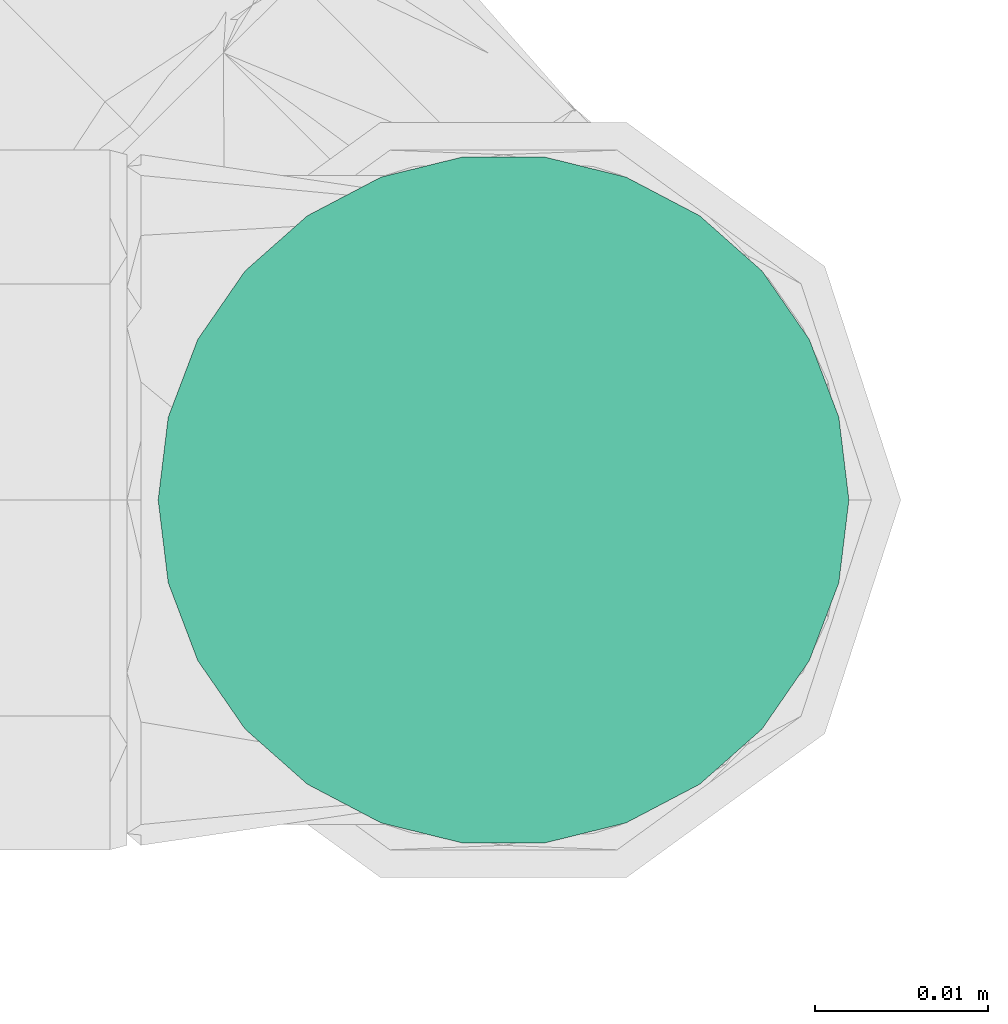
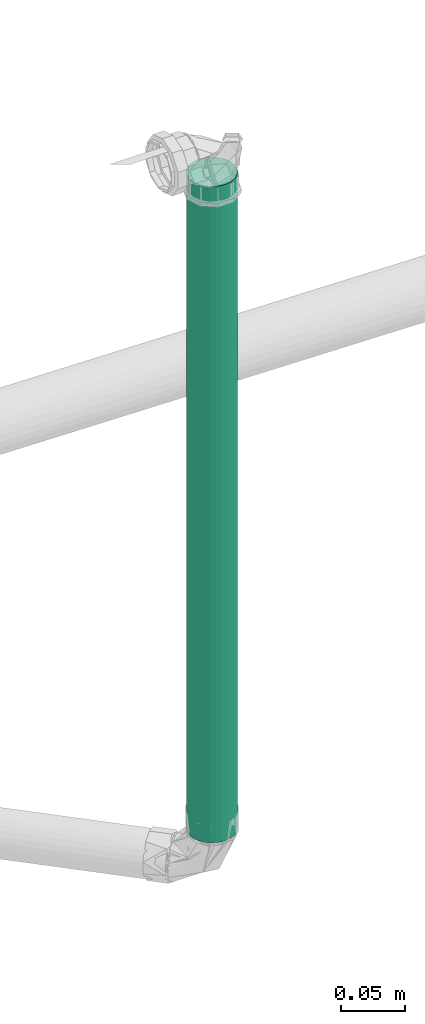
# One storey, part 269 of 589: 1 flow segment.
"""IFC2X3 building model written with IfcOpenShell, lengths in millimetres."""

import ifcopenshell
import ifcopenshell.guid

model = None  # the IFC model being written
_history = None  # IfcOwnerHistory: only IFC2X3 demands one
_inside = {}  # id of a spatial element -> (the spatial element, [elements in it])
_under = {}  # id of a project, library or spatial element -> (it, [spatial elements below it])
_declared = {}  # id of a project -> (the project, [libraries it declares])
_typed = {}  # id of a type object -> (the type object, [elements of that type])
_made_of = {}  # id of a material, layer set ... -> (it, [elements and type objects made of it])


def new_model(schema):
    """Start an empty IFC model of exactly this schema.

    Asked for "IFC4X3", IfcOpenShell would pick the latest addendum, in which some entities
    have other attributes; the version numbers below select the first issue.
    IFC2X3 requires an IfcOwnerHistory on every rooted entity: one is made here for all.
    """
    global model, _history
    if schema == "IFC4X3":
        model = ifcopenshell.file(schema_version=(4, 3, 0, 0))
    else:
        model = ifcopenshell.file(schema=schema)
    _inside.clear()
    _under.clear()
    _declared.clear()
    _typed.clear()
    _made_of.clear()
    _history = None
    if model.schema == "IFC2X3":
        org = make("IfcOrganization", Name="unknown")
        user = make(
            "IfcPersonAndOrganization",
            ThePerson=make("IfcPerson", FamilyName="unknown"),
            TheOrganization=org,
        )
        app = make(
            "IfcApplication",
            ApplicationDeveloper=org,
            Version="unknown",
            ApplicationFullName="unknown",
            ApplicationIdentifier="unknown",
        )
        _history = make(
            "IfcOwnerHistory",
            OwningUser=user,
            OwningApplication=app,
            ChangeAction="ADDED",
            CreationDate=0,
        )
    return model


def make(cls, **values):
    """One entity of the class cls with the attributes given. An attribute that is None is left unset."""
    return model.create_entity(
        cls, **{name: value for name, value in values.items() if value is not None}
    )


def entity(cls, *values):
    """Any entity or typed value of the class cls, its attributes in the order of the schema. None: left unset."""
    e = model.create_entity(cls)
    for i, value in enumerate(values):
        if value is not None:
            e[i] = value
    return e


def rooted(cls, **values):
    """An entity with a GlobalId (a new one), such as an element, a storey or a relation."""
    return make(cls, GlobalId=ifcopenshell.guid.new(), OwnerHistory=_history, **values)


def si_unit(unit_type, name, prefix=None):
    """IfcSIUnit, for example si_unit("LENGTHUNIT", "METRE", prefix="MILLI")."""
    return make("IfcSIUnit", UnitType=unit_type, Prefix=prefix, Name=name)


def converted_unit(unit_type, name, factor, base, dimensions=None, offset=None):
    """IfcConversionBasedUnit, such as the inch: factor (a typed value) times the base unit."""
    return make(
        "IfcConversionBasedUnit"
        if offset is None
        else "IfcConversionBasedUnitWithOffset",
        ConversionOffset=offset,
        Dimensions=None
        if dimensions is None
        else entity("IfcDimensionalExponents", *dimensions),
        UnitType=unit_type,
        Name=name,
        ConversionFactor=make(
            "IfcMeasureWithUnit", ValueComponent=factor, UnitComponent=base
        ),
    )


def derived_unit(unit_type, elements):
    """IfcDerivedUnit: a product of units, each with its exponent."""
    return make(
        "IfcDerivedUnit",
        Elements=[
            make("IfcDerivedUnitElement", Unit=unit, Exponent=power)
            for unit, power in elements
        ],
        UnitType=unit_type,
    )


def assignment(units):
    """IfcUnitAssignment: the units of a project."""
    return None if units is None else make("IfcUnitAssignment", Units=units)


def point(xyz):
    """IfcCartesianPoint."""
    return None if xyz is None else make("IfcCartesianPoint", Coordinates=xyz)


def direction(xyz):
    """IfcDirection."""
    return None if xyz is None else make("IfcDirection", DirectionRatios=xyz)


def frame(location, z_axis=None, x_axis=None):
    """IfcAxis2Placement3D, a coordinate frame: its origin and axes. An axis left out is left unset."""
    return make(
        "IfcAxis2Placement3D",
        Location=point(location),
        Axis=direction(z_axis),
        RefDirection=direction(x_axis),
    )


def frame_2d(location, x_axis=None):
    """IfcAxis2Placement2D, a coordinate frame in the plane: its origin and x axis."""
    return make(
        "IfcAxis2Placement2D", Location=point(location), RefDirection=direction(x_axis)
    )


def origin():
    """The frame at (0, 0, 0) with its axes left unset."""
    return frame((0.0, 0.0, 0.0))


def origin_2d_with_axis():
    """The frame at (0, 0) in the plane with the x axis (1, 0) written out."""
    return frame_2d((0.0, 0.0), x_axis=(1.0, 0.0))


def place(relative_to, where):
    """IfcLocalPlacement: puts the frame where relative to a parent placement (None: the world)."""
    return make(
        "IfcLocalPlacement", PlacementRelTo=relative_to, RelativePlacement=where
    )


def context(
    kind, dimensions, precision=None, world=None, true_north=None, identifier=None
):
    """IfcGeometricRepresentationContext, for example the 3D "Model" context."""
    return make(
        "IfcGeometricRepresentationContext",
        ContextIdentifier=identifier,
        ContextType=kind,
        CoordinateSpaceDimension=dimensions,
        Precision=precision,
        WorldCoordinateSystem=world,
        TrueNorth=true_north,
    )


def subcontext(parent, identifier, kind, view, scale=None):
    """IfcGeometricRepresentationSubContext, for example "Body" below "Model"."""
    return make(
        "IfcGeometricRepresentationSubContext",
        ContextIdentifier=identifier,
        ContextType=kind,
        ParentContext=parent,
        TargetScale=scale,
        TargetView=view,
    )


def project(units=None, contexts=None):
    """IfcProject with its units and contexts."""
    return rooted(
        "IfcProject",
        Name="project",
        RepresentationContexts=contexts,
        UnitsInContext=assignment(units),
    )


def spatial(cls, under=None, at=None, **own):
    """A site, building, storey or space (cls), placed at a placement, below another one or the project."""
    s = rooted(cls, ObjectPlacement=at, **own)
    if under is not None:
        _under.setdefault(under.id(), (under, []))[1].append(s)
    return s


def profile(cls, at=None, kind="AREA", **sizes):
    """A parametric profile (cls). Its sizes go by their IFC names, for example OverallWidth=200.0."""
    return make(cls, ProfileType=kind, Position=at, **sizes)


def circle(**sizes):
    """IfcCircleProfileDef."""
    return profile("IfcCircleProfileDef", **sizes)


def extrude(swept, where, along, depth):
    """IfcExtrudedAreaSolid: the profile swept, set in the frame where, extruded along a direction by depth."""
    return make(
        "IfcExtrudedAreaSolid",
        SweptArea=swept,
        Position=where,
        ExtrudedDirection=direction(along),
        Depth=depth,
    )


def shape(context_of_items, identifier, shape_type, items):
    """IfcShapeRepresentation: the items that make up one representation, for example the "Body"."""
    return make(
        "IfcShapeRepresentation",
        ContextOfItems=context_of_items,
        RepresentationIdentifier=identifier,
        RepresentationType=shape_type,
        Items=items,
    )


def made_of(thing, what):
    """Note that an element or type object is made of a material, layer set ...; save() writes the relation."""
    if what is not None:
        _made_of.setdefault(what.id(), (what, []))[1].append(thing)
    return thing


def type_object(cls, material=None, **own):
    """A type object (cls), such as IfcWallType, which elements share."""
    return made_of(rooted(cls, **own), material)


def element(
    cls,
    number,
    at=None,
    inside=None,
    cuts=None,
    type_object=None,
    material=None,
    context=None,
    identifier="Body",
    shape_type=None,
    held_by="IfcProductDefinitionShape",
    body=None,
    shapes=None,
    **own,
):
    """One element of the class cls, such as IfcWall. Its Tag is "e" and its number.

    at: its placement. inside: the storey or other place that contains it. cuts: it is an
    opening in that element (IfcRelVoidsElement). A single representation is given by context,
    identifier, shape_type and body (its items); several are given by shapes. held_by: the class
    of the entity that holds the representations. save() writes the other relations.
    """
    e = rooted(cls, Tag="e%d" % number, ObjectPlacement=at, **own)
    if body is not None:
        shapes = [shape(context, identifier, shape_type, body)]
    if shapes is not None:
        e.Representation = make(held_by, Representations=shapes)
    if inside is not None:
        _inside.setdefault(inside.id(), (inside, []))[1].append(e)
    if cuts is not None:
        rooted(
            "IfcRelVoidsElement", RelatingBuildingElement=cuts, RelatedOpeningElement=e
        )
    if type_object is not None:
        _typed.setdefault(type_object.id(), (type_object, []))[1].append(e)
    return made_of(e, material)


def aggregate(whole, parts):
    """IfcRelAggregates: a whole, such as a stair, and the parts it consists of."""
    return rooted("IfcRelAggregates", RelatingObject=whole, RelatedObjects=parts)


def save(model, path):
    """Write the relations noted so far, then the file.

    IfcRelAggregates (storeys below a building ...), IfcRelContainedInSpatialStructure (elements
    in a storey), IfcRelDefinesByType, IfcRelAssociatesMaterial and IfcRelDeclares: one each for
    every whole, place, type object, material and project.
    """
    for whole, parts in _under.values():
        aggregate(whole, parts)
    for where, things in _inside.values():
        rooted(
            "IfcRelContainedInSpatialStructure",
            RelatedElements=things,
            RelatingStructure=where,
        )
    for kind, things in _typed.values():
        rooted("IfcRelDefinesByType", RelatedObjects=things, RelatingType=kind)
    for what, things in _made_of.values():
        rooted("IfcRelAssociatesMaterial", RelatedObjects=things, RelatingMaterial=what)
    for by, libraries in _declared.values():
        rooted("IfcRelDeclares", RelatingContext=by, RelatedDefinitions=libraries)
    model.write(path)


model = new_model("IFC2X3")

# Units and contexts
model_context = context("Model", 3, precision=0.01, world=origin(), true_north=direction((6.123031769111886e-17, 1.0)))
body_context = subcontext(model_context, "Body", "Model", "MODEL_VIEW")
ifc_project = project(units=[si_unit("LENGTHUNIT", "METRE", prefix="MILLI"), si_unit("AREAUNIT", "SQUARE_METRE"), si_unit("VOLUMEUNIT", "CUBIC_METRE"), converted_unit("PLANEANGLEUNIT", "DEGREE", entity("IfcRatioMeasure", 0.017453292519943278), si_unit("PLANEANGLEUNIT", "RADIAN"), dimensions=[0, 0, 0, 0, 0, 0, 0]), si_unit("MASSUNIT", "GRAM", prefix="KILO"), derived_unit("MASSDENSITYUNIT", [(si_unit("MASSUNIT", "GRAM", prefix="KILO"), 1), (si_unit("LENGTHUNIT", "METRE"), -3)]), derived_unit("IONCONCENTRATIONUNIT", [(si_unit("MASSUNIT", "GRAM", prefix="KILO"), 1), (si_unit("LENGTHUNIT", "METRE"), -3)]), derived_unit("MOMENTOFINERTIAUNIT", [(si_unit("LENGTHUNIT", "METRE"), 4)]), si_unit("TIMEUNIT", "SECOND"), si_unit("FREQUENCYUNIT", "HERTZ"), si_unit("THERMODYNAMICTEMPERATUREUNIT", "DEGREE_CELSIUS"), derived_unit("THERMALTRANSMITTANCEUNIT", [(si_unit("MASSUNIT", "GRAM", prefix="KILO"), 1), (si_unit("THERMODYNAMICTEMPERATUREUNIT", "KELVIN"), -1), (si_unit("TIMEUNIT", "SECOND"), -3)]), derived_unit("THERMALCONDUCTANCEUNIT", [(si_unit("MASSUNIT", "GRAM", prefix="KILO"), 1), (si_unit("THERMODYNAMICTEMPERATUREUNIT", "KELVIN"), -1), (si_unit("TIMEUNIT", "SECOND"), -3), (si_unit("LENGTHUNIT", "METRE"), 1)]), derived_unit("VOLUMETRICFLOWRATEUNIT", [(si_unit("LENGTHUNIT", "METRE"), 3), (si_unit("TIMEUNIT", "SECOND"), -1)]), derived_unit("MASSFLOWRATEUNIT", [(si_unit("MASSUNIT", "GRAM", prefix="KILO"), 1), (si_unit("TIMEUNIT", "SECOND"), -1)]), derived_unit("ROTATIONALFREQUENCYUNIT", [(si_unit("TIMEUNIT", "SECOND"), -1)]), si_unit("ELECTRICCURRENTUNIT", "AMPERE"), si_unit("ELECTRICVOLTAGEUNIT", "VOLT"), si_unit("POWERUNIT", "WATT"), si_unit("FORCEUNIT", "NEWTON", prefix="KILO"), si_unit("ILLUMINANCEUNIT", "LUX"), si_unit("LUMINOUSFLUXUNIT", "LUMEN"), si_unit("LUMINOUSINTENSITYUNIT", "CANDELA"), derived_unit("USERDEFINED", [(si_unit("MASSUNIT", "GRAM", prefix="KILO"), -1), (si_unit("LENGTHUNIT", "METRE"), -2), (si_unit("TIMEUNIT", "SECOND"), 3), (si_unit("LUMINOUSFLUXUNIT", "LUMEN"), 1)]), derived_unit("USERDEFINED", [(si_unit("MASSUNIT", "GRAM", prefix="KILO"), 1), (si_unit("TIMEUNIT", "SECOND"), -3), (si_unit("LENGTHUNIT", "METRE"), 3), (si_unit("ELECTRICCURRENTUNIT", "AMPERE"), -2)]), derived_unit("SOUNDPOWERUNIT", [(si_unit("MASSUNIT", "GRAM", prefix="KILO"), 1), (si_unit("TIMEUNIT", "SECOND"), -3), (si_unit("LENGTHUNIT", "METRE"), 2)]), derived_unit("SOUNDPRESSUREUNIT", [(si_unit("MASSUNIT", "GRAM", prefix="KILO"), 1), (si_unit("LENGTHUNIT", "METRE"), -1), (si_unit("TIMEUNIT", "SECOND"), -2)]), derived_unit("LINEARVELOCITYUNIT", [(si_unit("LENGTHUNIT", "METRE"), 1), (si_unit("TIMEUNIT", "SECOND"), -1)]), si_unit("PRESSUREUNIT", "PASCAL"), derived_unit("USERDEFINED", [(si_unit("MASSUNIT", "GRAM", prefix="KILO"), 1), (si_unit("LENGTHUNIT", "METRE"), -2), (si_unit("TIMEUNIT", "SECOND"), -2)]), derived_unit("LINEARFORCEUNIT", [(si_unit("MASSUNIT", "GRAM", prefix="KILO"), 1), (si_unit("TIMEUNIT", "SECOND"), -2)]), derived_unit("PLANARFORCEUNIT", [(si_unit("MASSUNIT", "GRAM", prefix="KILO"), 1), (si_unit("LENGTHUNIT", "METRE"), -1), (si_unit("TIMEUNIT", "SECOND"), -2)]), derived_unit("SPECIFICHEATCAPACITYUNIT", [(si_unit("THERMODYNAMICTEMPERATUREUNIT", "KELVIN"), -1), (si_unit("LENGTHUNIT", "METRE"), 2), (si_unit("TIMEUNIT", "SECOND"), -2)]), derived_unit("HEATINGVALUEUNIT", [(si_unit("LENGTHUNIT", "METRE"), 2), (si_unit("TIMEUNIT", "SECOND"), -2)]), derived_unit("VAPORPERMEABILITYUNIT", [(si_unit("LENGTHUNIT", "METRE"), -1), (si_unit("TIMEUNIT", "SECOND"), 1)]), derived_unit("DYNAMICVISCOSITYUNIT", [(si_unit("MASSUNIT", "GRAM", prefix="KILO"), 1), (si_unit("TIMEUNIT", "SECOND"), -1), (si_unit("LENGTHUNIT", "METRE"), -1)]), derived_unit("THERMALEXPANSIONCOEFFICIENTUNIT", [(si_unit("THERMODYNAMICTEMPERATUREUNIT", "KELVIN"), -1)]), derived_unit("MODULUSOFELASTICITYUNIT", [(si_unit("MASSUNIT", "GRAM", prefix="KILO"), 1), (si_unit("LENGTHUNIT", "METRE"), -1), (si_unit("TIMEUNIT", "SECOND"), -2)]), derived_unit("ISOTHERMALMOISTURECAPACITYUNIT", [(si_unit("LENGTHUNIT", "METRE"), 3), (si_unit("MASSUNIT", "GRAM", prefix="KILO"), -1)]), derived_unit("MOISTUREDIFFUSIVITYUNIT", [(si_unit("TIMEUNIT", "SECOND"), -1), (si_unit("LENGTHUNIT", "METRE"), 2)])], contexts=[model_context])

# Site, building, storey
site_placement = place(None, origin())
site = spatial("IfcSite", under=ifc_project, at=site_placement, Name="Default", CompositionType="ELEMENT")
building_placement = place(site_placement, origin())
building = spatial("IfcBuilding", under=site, at=building_placement, CompositionType="ELEMENT")
storey_placement = place(building_placement, frame((0.0, 0.0, 100.0)))
storey = spatial("IfcBuildingStorey", under=building, at=storey_placement, Name="TÉRREO", CompositionType="ELEMENT", Elevation=100.0)

# Flow segment
pipe_segment_type = type_object("IfcPipeSegmentType", Name="Tipos de tubos:PVC Esgoto Série Normal", PredefinedType="NOTDEFINED")
flow_segment_placement = place(storey_placement, origin())
element("IfcFlowSegment", 1, at=flow_segment_placement, inside=storey, type_object=pipe_segment_type, Name="Tipos de tubos:PVC Esgoto Série Normal", ObjectType="Tipos de tubos:PVC Esgoto Série Normal", context=body_context, shape_type="SweptSolid", body=[
    extrude(circle(Radius=20.0, at=origin_2d_with_axis()), frame((5083.57296767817, 2361.070317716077, -145.47012140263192)), (0.0, 0.0, 1.0), 623.6701214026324),
])

save(model, "model.ifc")
